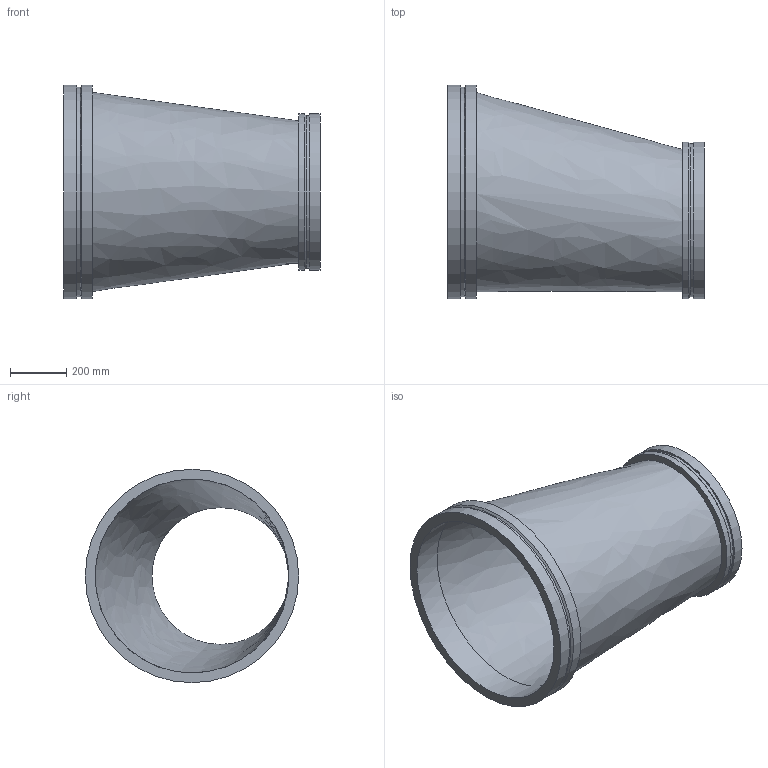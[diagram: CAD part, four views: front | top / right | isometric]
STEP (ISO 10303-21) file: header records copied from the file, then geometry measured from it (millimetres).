
FILE_DESCRIPTION(/* description */ ('VIC REDUCER ECCENTRIC No W51-VR','CAx-IF Rec.Pracs.---Representation and Presentation of Product Manufacturing Information (PMI)---4.0---2014-10-13'),/* implementation_level */ '2;1');
FILE_NAME(/* name */ 'C:\Users\kkamble\AppData\Roaming\Autodesk\ApplicationPlugins\Back Up\Victaulic_Vic-Ring_Reducer Eccentric_No W51 VR (AGR)\Victaulic_Vic-Ring_Reducer Eccentric_No W51 VR (AGR)_28.0x20.0 (700x500).stp',/* time_stamp */ '2020-09-10T11:49:47+05:00',/* author */ ('CONSTRUCTION PIPING SERVICES'),/* organization */ ('Victaulic'),/* preprocessor_version */ 'ST-DEVELOPER v17.2',/* originating_system */ 'Autodesk Inventor 2019',/* authorisation */ '');
FILE_SCHEMA (('AP242_MANAGED_MODEL_BASED_3D_ENGINEERING_MIM_LF { 1 0 10303 442 1 1 4 }'));
Length unit declared in the file: inch
Products named in the file (1): W51 VR-28.0x20.0
Bounding box: 914.4 x 762 x 762 mm (x, y, z)
Volume: 25273197.8 mm3; surface area: 3809959.6 mm2
Topology: 1 solids, 1 shells, 18 faces, 49 edges, 37 vertices
Faces by surface type: cylinder 8, plane 6, cone 2, bspline 2
Full cylindrical faces by diameter (mm): 488.95 x1, 546.1 x1, 558.8 x2, 692.15 x1, 747.522 x1, 762 x2
Entity records: 792 total; most frequent: CARTESIAN_POINT 158, DIRECTION 144, ORIENTED_EDGE 98, AXIS2_PLACEMENT_3D 67, EDGE_CURVE 49, CIRCLE 37, VERTEX_POINT 37, EDGE_LOOP 24
